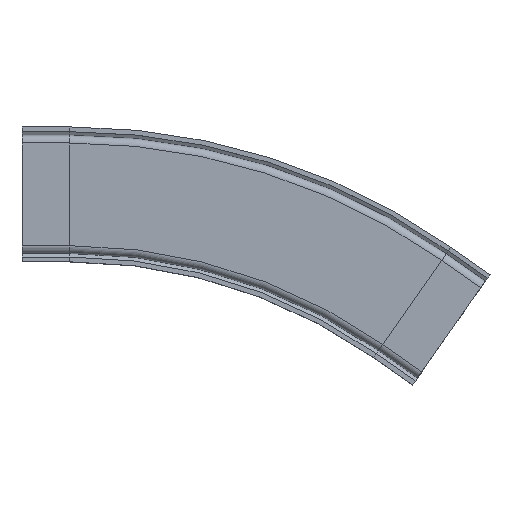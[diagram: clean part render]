
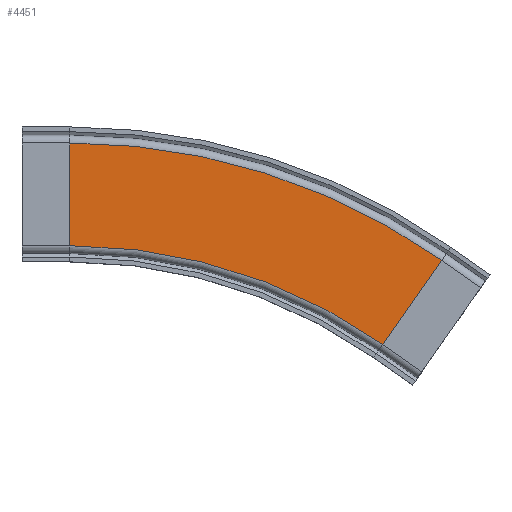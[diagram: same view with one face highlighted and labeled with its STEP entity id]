
A CAD part, top view. The second image highlights one B-rep face of the part: STEP entity #4451.
In plain terms, the highlighted planar face has unit normal (0, 0, 1).
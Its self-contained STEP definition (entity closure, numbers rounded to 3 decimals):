
#197 = AXIS2_PLACEMENT_3D ( 'NONE', #519, #3104, #480 ) ;
#368 = DIRECTION ( 'NONE',  ( 1., 0., 0. ) ) ;
#480 = DIRECTION ( 'NONE',  ( -1., 0., 0. ) ) ;
#519 = CARTESIAN_POINT ( 'NONE',  ( 302.124, -125.648, 42.5 ) ) ;
#818 = ORIENTED_EDGE ( 'NONE', *, *, #3815, .F. ) ;
#862 = DIRECTION ( 'NONE',  ( 0., 0., 1. ) ) ;
#1017 = EDGE_LOOP ( 'NONE', ( #4981, #818, #4544, #2543 ) ) ;
#1024 = VERTEX_POINT ( 'NONE', #3261 ) ;
#1060 = VERTEX_POINT ( 'NONE', #2868 ) ;
#1125 = AXIS2_PLACEMENT_3D ( 'NONE', #3484, #862, #5580 ) ;
#1187 = CIRCLE ( 'NONE', #1125, 457. ) ;
#1211 = CARTESIAN_POINT ( 'NONE',  ( 40., -500., 42.5 ) ) ;
#1824 = EDGE_CURVE ( 'NONE', #3891, #4096, #3391, .T. ) ;
#2154 = CARTESIAN_POINT ( 'NONE',  ( 40., 0., 42.5 ) ) ;
#2220 = AXIS2_PLACEMENT_3D ( 'NONE', #1211, #5622, #368 ) ;
#2237 = VECTOR ( 'NONE', #5214, 1000. ) ;
#2543 = ORIENTED_EDGE ( 'NONE', *, *, #5385, .T. ) ;
#2868 = CARTESIAN_POINT ( 'NONE',  ( 302.124, -125.648, 42.5 ) ) ;
#3012 = LINE ( 'NONE', #5287, #5012 ) ;
#3104 = DIRECTION ( 'NONE',  ( 0., 0., -1. ) ) ;
#3261 = CARTESIAN_POINT ( 'NONE',  ( 351.452, -55.2, 42.5 ) ) ;
#3391 = LINE ( 'NONE', #2154, #2237 ) ;
#3437 = FACE_OUTER_BOUND ( 'NONE', #1017, .T. ) ;
#3484 = CARTESIAN_POINT ( 'NONE',  ( 40., -500., 42.5 ) ) ;
#3492 = CIRCLE ( 'NONE', #2220, 543. ) ;
#3533 = PLANE ( 'NONE',  #197 ) ;
#3815 = EDGE_CURVE ( 'NONE', #1060, #4096, #1187, .T. ) ;
#3891 = VERTEX_POINT ( 'NONE', #5298 ) ;
#4096 = VERTEX_POINT ( 'NONE', #5047 ) ;
#4451 = ADVANCED_FACE ( 'NONE', ( #3437 ), #3533, .F. ) ;
#4544 = ORIENTED_EDGE ( 'NONE', *, *, #5021, .T. ) ;
#4981 = ORIENTED_EDGE ( 'NONE', *, *, #1824, .T. ) ;
#5012 = VECTOR ( 'NONE', #5320, 1000. ) ;
#5021 = EDGE_CURVE ( 'NONE', #1060, #1024, #3012, .T. ) ;
#5047 = CARTESIAN_POINT ( 'NONE',  ( 40., -43., 42.5 ) ) ;
#5214 = DIRECTION ( 'NONE',  ( 0., -1., 0. ) ) ;
#5287 = CARTESIAN_POINT ( 'NONE',  ( 302.124, -125.648, 42.5 ) ) ;
#5298 = CARTESIAN_POINT ( 'NONE',  ( 40., 43., 42.5 ) ) ;
#5320 = DIRECTION ( 'NONE',  ( 0.574, 0.819, 0. ) ) ;
#5385 = EDGE_CURVE ( 'NONE', #1024, #3891, #3492, .T. ) ;
#5580 = DIRECTION ( 'NONE',  ( 1., 0., 0. ) ) ;
#5622 = DIRECTION ( 'NONE',  ( 0., 0., 1. ) ) ;
